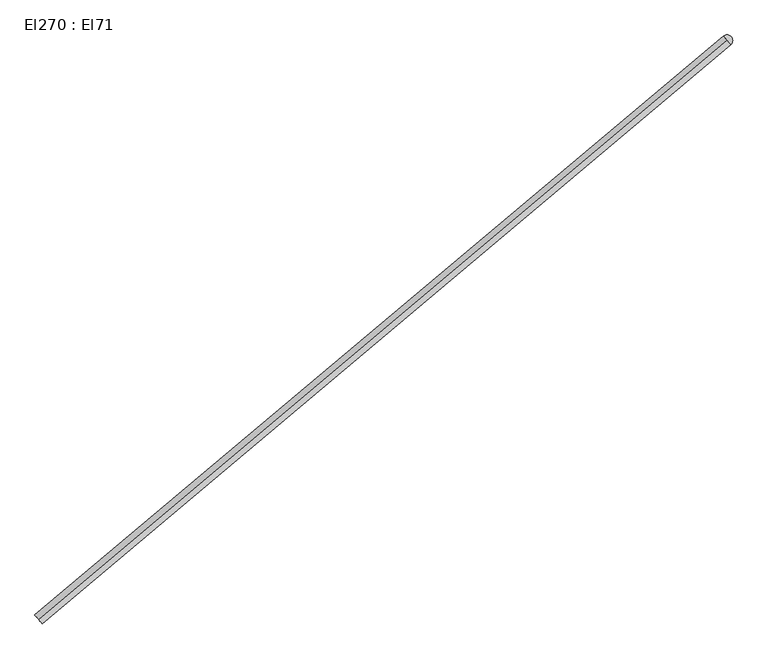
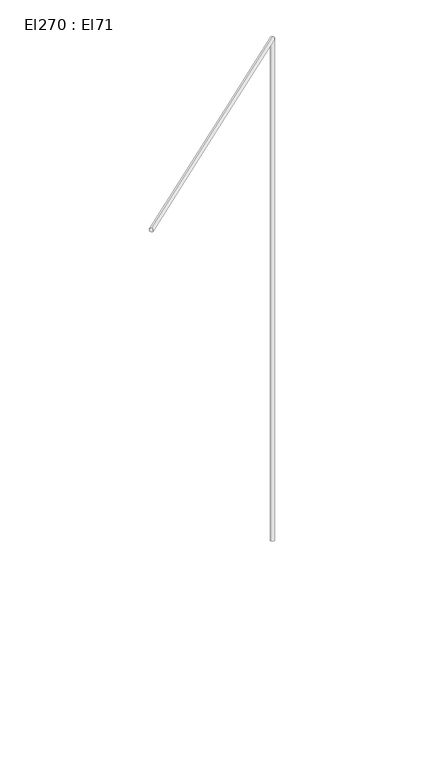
"""IFC4 building model written with IfcOpenShell, lengths in millimetres: cable carrier segment geometry, El270 : El71."""

from ifc_helpers import new_model, si_unit, point, frame, frame_2d, origin, place, context, project, spatial, circle_curve, trimmed, segment, composite_curve, outline, extrude, source, transform, mapped, element, save


def el270_el71_9360d52e(model_context):
    return source(origin(), model_context, "Body", "SweptSolid", [
        extrude(outline(composite_curve([segment(trimmed(circle_curve(frame_2d((19794.4856511, 8913.2211745)), 9.5), [point((19784.9856511, 8913.2211745))], [point((19803.9856511, 8913.2211745))], False, "CARTESIAN"), True, "CONTINUOUS"), segment(trimmed(circle_curve(frame_2d((19794.4856511, 8913.2211745)), 9.5), [point((19803.9856511, 8913.2211745))], [point((19784.9856511, 8913.2211745))], False, "CARTESIAN"), True, "CONTINUOUS")], self_intersect=False)), frame((0.0, 0.0, 1830.0), z_axis=(0.0, 0.0, 1.0), x_axis=(1.0, 0.0, 0.0)), (0.0, 0.0, 1.0), 2620.0),
        extrude(outline(composite_curve([segment(trimmed(circle_curve(frame_2d((0.0, -9.5)), 9.5), [point((0.0, -19.0))], [point((0.0, 0.0))], False, "CARTESIAN"), True, "CONTINUOUS"), segment(trimmed(circle_curve(frame_2d((0.0, -9.5)), 9.5), [point((0.0, 0.0))], [point((0.0, -19.0))], False, "CARTESIAN"), True, "CONTINUOUS")], self_intersect=False)), frame((18630.2776511, 7934.3751745, 4459.5), z_axis=(0.7654099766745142, 0.6435429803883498, 0.0), x_axis=(-0.6435429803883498, 0.7654099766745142, 0.0)), (0.0, 0.0, 1.0), 1521.03),
    ])


if __name__ == "__main__":
    model = new_model("IFC4")
    model_context = context("Model", 3, world=origin())
    ifc_project = project(units=[si_unit("LENGTHUNIT", "METRE", prefix="MILLI")], contexts=[model_context])
    site = spatial("IfcSite", under=ifc_project)
    building = spatial("IfcBuilding", under=site)
    placement = place(None, origin())
    el270_el71_shape = el270_el71_9360d52e(model_context)
    element("IfcCableCarrierSegment", 1, ObjectType="El270 : El71", at=placement, inside=building, context=model_context, shape_type="MappedRepresentation", body=[
        mapped(el270_el71_shape, transform((0.0, 0.0, 0.0), x_axis=(1.0, 0.0, 0.0), y_axis=(0.0, 1.0, 0.0), z_axis=(0.0, 0.0, 1.0))),
    ])
    save(model, "model.ifc")
